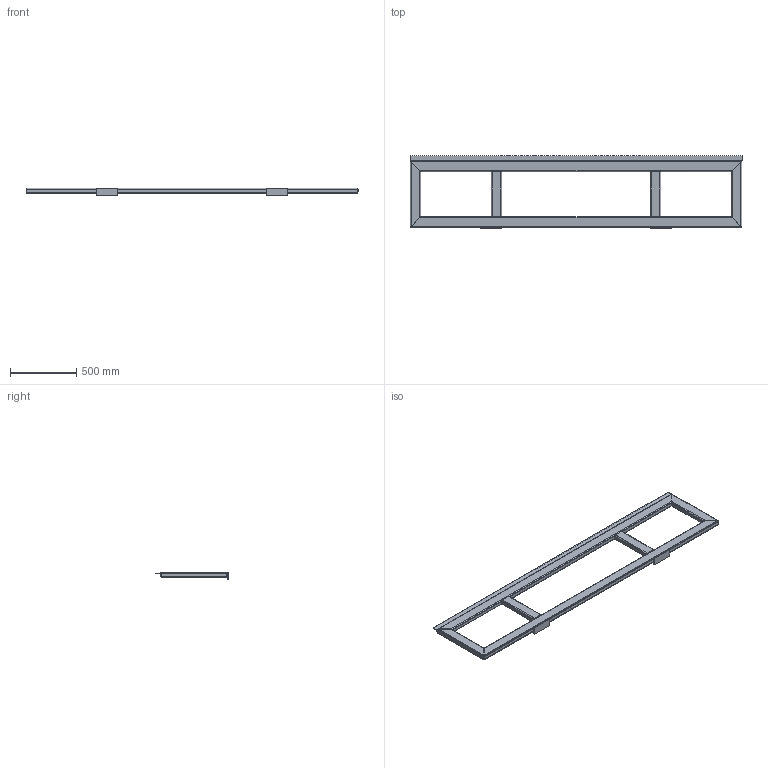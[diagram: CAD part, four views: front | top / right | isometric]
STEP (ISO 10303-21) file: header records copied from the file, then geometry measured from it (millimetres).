
FILE_DESCRIPTION (( 'STEP AP214' ), '1' );
FILE_NAME ('Rahmen als Schweißkonstruktion.STEP', '2011-05-02T15:26:18', ( 'MY' ), ( '' ), 'SwSTEP 2.0', 'SolidWorks 2011', '' );
FILE_SCHEMA (( 'AUTOMOTIVE_DESIGN' ));
Length unit declared in the file: millimetre
Products named in the file (1): Rahmen als Schweißkonstruktion
Bounding box: 2500.01 x 548 x 60.06 mm (x, y, z)
Volume: 6133417.9 mm3; surface area: 3060260.7 mm2
Topology: 9 solids, 9 shells, 129 faces, 333 edges, 222 vertices
Faces by surface type: plane 78, cylinder 51
Entity records: 4015 total; most frequent: CARTESIAN_POINT 877, ORIENTED_EDGE 666, DIRECTION 567, EDGE_CURVE 333, LINE 231, VECTOR 231, VERTEX_POINT 222, AXIS2_PLACEMENT_3D 168
